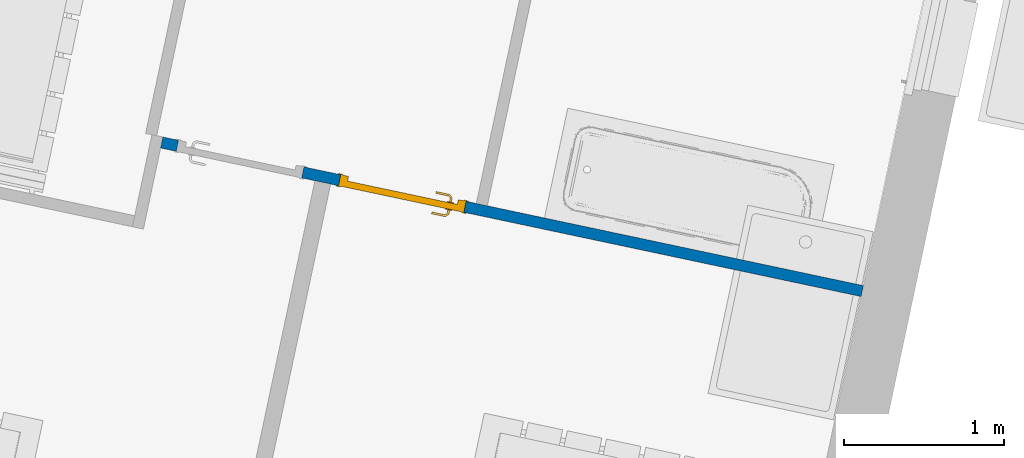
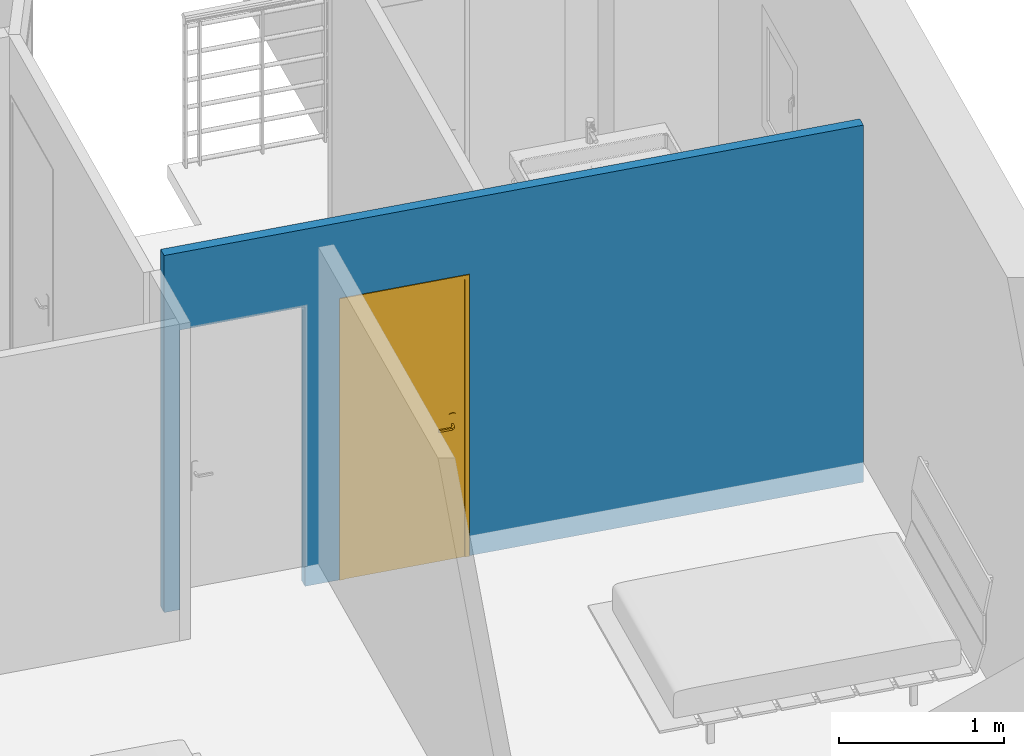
# One storey, part 4 of 18: 1 door, 1 wall, 2 openings.
"""IFC2X3 building model written with IfcOpenShell, lengths in metres."""

from ifc_helpers import new_model, entity, si_unit, converted_unit, derived_unit, direction, frame, frame_2d, origin, place, context, subcontext, project, spatial, rectangle, extrude, faceted_brep, source, transform, mapped, material, material_list, layer, layer_set, layer_usage, type_object, type_shapes, element, fill, save


model = new_model("IFC2X3")

# Units and contexts
model_context = context("Model", 3, precision=1e-05, world=origin(), true_north=direction((6.12303176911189e-17, 1.0)))
body_context = subcontext(model_context, "Body", "Model", "MODEL_VIEW")
ifc_project = project(units=[si_unit("LENGTHUNIT", "METRE"), si_unit("AREAUNIT", "SQUARE_METRE"), si_unit("VOLUMEUNIT", "CUBIC_METRE"), converted_unit("PLANEANGLEUNIT", "DEGREE", entity("IfcRatioMeasure", 0.0174532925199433), si_unit("PLANEANGLEUNIT", "RADIAN"), dimensions=[0, 0, 0, 0, 0, 0, 0]), si_unit("MASSUNIT", "GRAM", prefix="KILO"), derived_unit("MASSDENSITYUNIT", [(si_unit("MASSUNIT", "GRAM", prefix="KILO"), 1), (si_unit("LENGTHUNIT", "METRE"), -3)]), si_unit("TIMEUNIT", "SECOND"), si_unit("FREQUENCYUNIT", "HERTZ"), si_unit("THERMODYNAMICTEMPERATUREUNIT", "DEGREE_CELSIUS"), derived_unit("THERMALTRANSMITTANCEUNIT", [(si_unit("MASSUNIT", "GRAM", prefix="KILO"), 1), (si_unit("THERMODYNAMICTEMPERATUREUNIT", "KELVIN"), -1), (si_unit("TIMEUNIT", "SECOND"), -3)]), derived_unit("VOLUMETRICFLOWRATEUNIT", [(si_unit("LENGTHUNIT", "METRE"), 3), (si_unit("TIMEUNIT", "SECOND"), -1)]), si_unit("ELECTRICCURRENTUNIT", "AMPERE"), si_unit("ELECTRICVOLTAGEUNIT", "VOLT"), si_unit("POWERUNIT", "WATT"), si_unit("FORCEUNIT", "NEWTON", prefix="KILO"), si_unit("ILLUMINANCEUNIT", "LUX"), si_unit("LUMINOUSFLUXUNIT", "LUMEN"), si_unit("LUMINOUSINTENSITYUNIT", "CANDELA"), derived_unit("USERDEFINED", [(si_unit("MASSUNIT", "GRAM", prefix="KILO"), -1), (si_unit("LENGTHUNIT", "METRE"), -2), (si_unit("TIMEUNIT", "SECOND"), 3), (si_unit("LUMINOUSFLUXUNIT", "LUMEN"), 1)]), derived_unit("LINEARVELOCITYUNIT", [(si_unit("LENGTHUNIT", "METRE"), 1), (si_unit("TIMEUNIT", "SECOND"), -1)]), si_unit("PRESSUREUNIT", "PASCAL"), derived_unit("USERDEFINED", [(si_unit("LENGTHUNIT", "METRE"), -2), (si_unit("MASSUNIT", "GRAM", prefix="KILO"), 1), (si_unit("TIMEUNIT", "SECOND"), -2)])], contexts=[model_context])

# Site, building, storey
site_placement = place(None, origin())
site = spatial("IfcSite", under=ifc_project, at=site_placement, Name="Default", CompositionType="ELEMENT")
building_placement = place(site_placement, origin())
building = spatial("IfcBuilding", under=site, at=building_placement, CompositionType="ELEMENT")
storey_placement = place(building_placement, frame((0.0, 0.0, 2.8)))
storey = spatial("IfcBuildingStorey", under=building, at=storey_placement, Name="ETAGE", CompositionType="ELEMENT", Elevation=2.8)

# Wall, openings, door
ifc_material_1 = material(Name="Mur par défaut")
ifc_layer = layer(ifc_material_1, 0.07)
ifc_layer_set = layer_set([ifc_layer], Name="Mur de base:Int.  Platre 70 mm")
ifc_layer_usage = layer_usage(ifc_layer_set, "AXIS2", "NEGATIVE", 0.035)
wall_type = type_object("IfcWallType", Name="Mur de base:Int.  Platre 70 mm", PredefinedType="STANDARD", material=ifc_layer_set)
wall_placement = place(storey_placement, frame((-11.0295461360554, 78.4394398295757, 0.0), z_axis=(0.0, 0.0, 1.0), x_axis=(-0.978238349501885, 0.207484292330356, 0.0)))
wall = element("IfcWallStandardCase", 1, at=wall_placement, inside=storey, type_object=wall_type, material=ifc_layer_usage, Name="Mur de base:Int.  Platre 70 mm", ObjectType="Mur de base:Int.  Platre 70 mm", context=body_context, shape_type="SweptSolid", body=[
    extrude(rectangle(XDim=4.47000000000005, YDim=0.0699999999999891, at=frame_2d((2.23500000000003, -2.4008572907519e-15), x_axis=(-1.0, 0.0))), origin(), (0.0, 0.0, 1.0), 2.65),
])
opening_1_placement = place(wall_placement, frame((2.53500000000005, -0.035, 0.0)))
opening_1 = element("IfcOpeningElement", 2, at=opening_1_placement, cuts=wall, Name="Int. Simple:PP (0.73m x 2.04m):1", ObjectType="Opening", context=body_context, shape_type="SweptSolid", body=[
    extrude(rectangle(XDim=2.075, YDim=0.799999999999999, at=frame_2d((1.0375, 0.4), x_axis=(1.0, 0.0))), frame((0.0, 0.0, 0.0), z_axis=(0.0, 1.0, 0.0), x_axis=(0.0, 0.0, 1.0)), (0.0, 0.0, 1.0), 0.07),
])
opening_2_placement = place(wall_placement, frame((3.57000000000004, -0.035, 0.0)))
element("IfcOpeningElement", 3, at=opening_2_placement, cuts=wall, Name="Int. Simple:PP (0.73m x 2.04m):1", ObjectType="Opening", context=body_context, shape_type="SweptSolid", body=[
    extrude(rectangle(XDim=2.075, YDim=0.799999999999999, at=frame_2d((1.0375, 0.4), x_axis=(1.0, 0.0))), frame((0.0, 0.0, 0.0), z_axis=(0.0, 1.0, 0.0), x_axis=(0.0, 0.0, 1.0)), (0.0, 0.0, 1.0), 0.07),
])
ifc_material_2 = material(Name="Finition Peinture - Blanc satiné")
ifc_material_3 = material(Name="Bois - Mélaminé hêtre")
ifc_material_list_1 = material_list([ifc_material_2, ifc_material_3])
ifc_material_list_2 = material_list([ifc_material_2, ifc_material_3])
door_style = type_object("IfcDoorStyle", Name="PP (0.73m x 2.04m)", ConstructionType="NOTDEFINED", OperationType="SINGLE_SWING_RIGHT", ParameterTakesPrecedence=False, Sizeable=False, material=ifc_material_list_2)
shared_shape = source(origin(), body_context, "Body", "Brep", [
    faceted_brep([(0.795000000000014, -0.00500000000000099, 0.870000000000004), (0.795000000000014, -0.00500000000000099, 1.08), (0.785352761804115, -0.00500000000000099, 1.08399601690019), (0.775000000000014, -0.00500000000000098, 1.08535898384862), (0.764647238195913, -0.00500000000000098, 1.08399601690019), (0.755000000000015, -0.00500000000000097, 1.08), (0.755000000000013, -0.00500000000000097, 0.870000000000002), (0.764647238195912, -0.00500000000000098, 0.866003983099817), (0.775000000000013, -0.00500000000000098, 0.86464101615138), (0.785352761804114, -0.00500000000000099, 0.866003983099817), (0.795000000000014, 0.0, 1.08), (0.795000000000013, 0.0, 0.870000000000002), (0.785352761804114, 0.0, 0.866003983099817), (0.775000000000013, 0.0, 0.86464101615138), (0.764647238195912, 0.0, 0.866003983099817), (0.755000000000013, 0.0, 0.870000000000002), (0.755000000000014, 0.0, 1.08), (0.764647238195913, 0.0, 1.08399601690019), (0.775000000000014, 0.0, 1.08535898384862), (0.785352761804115, 0.0, 1.08399601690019)], [[[0, 1, 2, 3, 4, 5, 6, 7, 8, 9]], [[10, 11, 12, 13, 14, 15, 16, 17, 18, 19]], [[9, 12, 11, 0]], [[8, 13, 12, 9]], [[7, 14, 13, 8]], [[7, 6, 15, 14]], [[15, 6, 5, 16]], [[4, 17, 16, 5]], [[3, 18, 17, 4]], [[2, 19, 18, 3]], [[2, 1, 10, 19]], [[11, 10, 1, 0]]]),
    faceted_brep([(0.795000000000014, 0.039999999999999, 0.870000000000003), (0.795000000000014, 0.039999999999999, 1.08), (0.785352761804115, 0.039999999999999, 1.08399601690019), (0.775000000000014, 0.039999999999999, 1.08535898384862), (0.764647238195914, 0.039999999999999, 1.08399601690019), (0.755000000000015, 0.039999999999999, 1.08), (0.755000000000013, 0.039999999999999, 0.870000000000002), (0.764647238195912, 0.039999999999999, 0.866003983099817), (0.775000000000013, 0.039999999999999, 0.86464101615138), (0.785352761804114, 0.039999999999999, 0.866003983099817), (0.775000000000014, 0.044999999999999, 1.08535898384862), (0.785352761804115, 0.044999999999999, 1.08399601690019), (0.795000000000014, 0.044999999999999, 1.08), (0.795000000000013, 0.044999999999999, 0.870000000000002), (0.785352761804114, 0.044999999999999, 0.866003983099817), (0.775000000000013, 0.044999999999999, 0.86464101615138), (0.764647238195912, 0.044999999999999, 0.866003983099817), (0.755000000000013, 0.044999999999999, 0.870000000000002), (0.755000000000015, 0.044999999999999, 1.08), (0.764647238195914, 0.044999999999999, 1.08399601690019)], [[[0, 1, 2, 3, 4, 5, 6, 7, 8, 9]], [[10, 11, 12, 13, 14, 15, 16, 17, 18, 19]], [[4, 19, 18, 5]], [[3, 10, 19, 4]], [[2, 11, 10, 3]], [[2, 1, 12, 11]], [[13, 12, 1, 0]], [[9, 14, 13, 0]], [[8, 15, 14, 9]], [[7, 16, 15, 8]], [[7, 6, 17, 16]], [[17, 6, 5, 18]]]),
    faceted_brep([(0.772974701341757, -0.00500000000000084, 1.00778044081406), (0.777025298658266, -0.00500000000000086, 1.00778044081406), (0.781000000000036, -0.00500000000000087, 1.00699999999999), (0.781000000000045, -0.00500000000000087, 0.992999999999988), (0.777025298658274, -0.00500000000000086, 0.99221955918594), (0.772974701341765, -0.00500000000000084, 0.992219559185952), (0.768999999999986, -0.00500000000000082, 0.993000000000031), (0.768999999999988, -0.00500000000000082, 1.007), (0.777025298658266, -0.0310045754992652, 1.00778044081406), (0.781000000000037, -0.0326509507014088, 1.007), (0.772974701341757, -0.0293267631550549, 1.00778044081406), (0.759298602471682, -0.0430028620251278, 1.00778044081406), (0.760976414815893, -0.047053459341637, 1.00778044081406), (0.768999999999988, -0.0276803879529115, 1.007), (0.768999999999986, -0.0276803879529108, 0.993000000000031), (0.772974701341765, -0.0293267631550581, 0.992219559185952), (0.777025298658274, -0.0310045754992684, 0.99221955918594), (0.760976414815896, -0.0470534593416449, 0.99221955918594), (0.759298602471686, -0.0430028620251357, 0.992219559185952), (0.781000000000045, -0.0326509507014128, 0.992999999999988), (0.762622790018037, -0.051028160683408, 1.007), (0.757652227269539, -0.0390281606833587, 1.007), (0.757652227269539, -0.0390281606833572, 0.993000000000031), (0.76262279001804, -0.0510281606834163, 0.992999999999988), (0.674981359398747, -0.0510281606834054, 1.007), (0.674981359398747, -0.0470534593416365, 1.00778044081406), (0.674981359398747, -0.0430028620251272, 1.00778044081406), (0.674981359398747, -0.0390281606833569, 1.00699999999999), (0.674981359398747, -0.0390281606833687, 0.993000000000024), (0.674981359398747, -0.0430028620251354, 0.992219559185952), (0.674981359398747, -0.0470534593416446, 0.99221955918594), (0.674981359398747, -0.0510281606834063, 0.992999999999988), (0.71713998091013, -0.0450281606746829, 1.0078786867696), (0.722692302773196, -0.0510281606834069, 1.007), (0.716316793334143, -0.0390281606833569, 1.007), (0.716316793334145, -0.0390281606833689, 0.993000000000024), (0.717139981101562, -0.0450281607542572, 0.992121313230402), (0.722692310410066, -0.0510281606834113, 0.992999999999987)], [[[0, 1, 2, 3, 4, 5, 6, 7]], [[2, 1, 8, 9]], [[1, 0, 10, 11, 12, 8]], [[0, 7, 13, 10]], [[14, 13, 7, 6]], [[5, 15, 14, 6]], [[5, 4, 16, 17, 18, 15]], [[3, 19, 16, 4]], [[9, 19, 3, 2]], [[9, 8, 12, 20]], [[10, 13, 21, 11]], [[22, 21, 13, 14]], [[14, 15, 18, 22]], [[16, 19, 23, 17]], [[20, 23, 19, 9]], [[24, 25, 26, 27, 28, 29, 30, 31]], [[32, 25, 33]], [[33, 25, 24]], [[33, 20, 12]], [[11, 34, 32]], [[34, 11, 21]], [[27, 26, 34]], [[32, 26, 25]], [[32, 34, 26]], [[32, 33, 12]], [[11, 32, 12]], [[21, 22, 35, 28, 27, 34]], [[36, 29, 35]], [[30, 36, 37]], [[18, 35, 22]], [[29, 28, 35]], [[30, 37, 31]], [[37, 17, 23]], [[36, 17, 37]], [[36, 18, 17]], [[36, 35, 18]], [[29, 36, 30]], [[23, 20, 33, 24, 31, 37]]]),
    faceted_brep([(0.772974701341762, 0.0449999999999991, 0.992219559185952), (0.777025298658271, 0.0449999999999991, 0.99221955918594), (0.781000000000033, 0.0449999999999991, 0.992999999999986), (0.781000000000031, 0.0449999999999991, 1.007), (0.777025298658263, 0.0449999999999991, 1.00778044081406), (0.772974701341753, 0.0449999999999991, 1.00778044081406), (0.768999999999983, 0.0449999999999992, 1.007), (0.768999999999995, 0.0449999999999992, 0.993000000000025), (0.768999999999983, 0.0674852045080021, 1.007), (0.768999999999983, 0.0674852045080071, 0.993000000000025), (0.772974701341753, 0.0691315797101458, 1.00778044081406), (0.777025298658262, 0.070809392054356, 1.00778044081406), (0.760838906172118, 0.0869957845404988, 1.00778044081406), (0.759161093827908, 0.0829451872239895, 1.00778044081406), (0.781000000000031, 0.0724557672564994, 1.007), (0.781000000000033, 0.0724557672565, 0.992999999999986), (0.777025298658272, 0.0708093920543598, 0.99221955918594), (0.772974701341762, 0.0691315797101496, 0.992219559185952), (0.759161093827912, 0.0829451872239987, 0.992219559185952), (0.760838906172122, 0.0869957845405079, 0.99221955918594), (0.757514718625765, 0.0789704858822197, 1.007), (0.757514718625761, 0.0789704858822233, 0.993000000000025), (0.762485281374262, 0.0909704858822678, 1.007), (0.762485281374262, 0.0909704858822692, 0.992999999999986), (0.674954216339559, 0.0829451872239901, 1.00778044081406), (0.674954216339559, 0.0869957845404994, 1.00778044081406), (0.674954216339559, 0.0909704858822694, 1.007), (0.674954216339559, 0.0909704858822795, 0.992999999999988), (0.674954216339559, 0.0869957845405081, 0.99221955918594), (0.674954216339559, 0.0829451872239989, 0.992219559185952), (0.674954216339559, 0.07897048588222, 0.993000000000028), (0.674954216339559, 0.0789704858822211, 1.007), (0.716234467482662, 0.0789704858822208, 1.007), (0.716234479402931, 0.0789704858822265, 0.993000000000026), (0.717057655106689, 0.0849704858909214, 1.0078786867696), (0.722554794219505, 0.0909704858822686, 1.007), (0.722554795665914, 0.0909704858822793, 0.992999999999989), (0.717057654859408, 0.0849704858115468, 0.992121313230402)], [[[0, 1, 2, 3, 4, 5, 6, 7]], [[8, 9, 7, 6]], [[5, 10, 8, 6]], [[5, 4, 11, 12, 13, 10]], [[3, 14, 11, 4]], [[14, 3, 2, 15]], [[2, 1, 16, 15]], [[1, 0, 17, 18, 19, 16]], [[0, 7, 9, 17]], [[20, 21, 9, 8]], [[8, 10, 13, 20]], [[14, 22, 12, 11]], [[23, 22, 14, 15]], [[15, 16, 19, 23]], [[17, 9, 21, 18]], [[24, 25, 26, 27, 28, 29, 30, 31]], [[21, 20, 32, 31, 30, 33]], [[34, 24, 32]], [[25, 34, 35]], [[13, 32, 20]], [[24, 31, 32]], [[25, 35, 26]], [[35, 12, 22]], [[34, 12, 35]], [[34, 13, 12]], [[34, 32, 13]], [[24, 34, 25]], [[22, 23, 36, 27, 26, 35]], [[37, 28, 36]], [[36, 28, 27]], [[36, 23, 19]], [[18, 33, 37]], [[33, 18, 21]], [[30, 29, 33]], [[37, 29, 28]], [[37, 33, 29]], [[37, 36, 19]], [[18, 37, 19]]]),
    faceted_brep([(0.835000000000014, 0.0400000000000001, 2.04), (0.835000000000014, 0.0400000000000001, 0.0), (0.105000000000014, 0.0400000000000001, 0.0), (0.105000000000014, 0.0400000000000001, 2.04), (0.835000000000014, 0.0, 2.04), (0.105000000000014, 0.0, 2.04), (0.105000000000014, 0.0, 0.0), (0.835000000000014, 0.0, 0.0)], [[[0, 1, 2, 3]], [[4, 5, 6, 7]], [[3, 5, 4, 0]], [[2, 6, 5, 3]], [[1, 7, 6, 2]], [[0, 4, 7, 1]]]),
    faceted_brep([(0.870000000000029, 0.0, 0.0), (0.835000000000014, 0.0, 0.0), (0.835000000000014, 0.04, 0.0), (0.820000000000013, 0.04, 0.0), (0.820000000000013, 0.0699999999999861, 0.0), (0.870000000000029, 0.0699999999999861, 0.0), (0.870000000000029, 0.0699999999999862, 2.07500000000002), (0.870000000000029, 0.0, 2.07500000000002), (0.820000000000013, 0.0699999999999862, 2.025), (0.120000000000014, 0.0699999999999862, 2.025), (0.120000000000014, 0.0699999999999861, 0.0), (0.0699999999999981, 0.0699999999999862, 0.0), (0.0699999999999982, 0.0699999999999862, 2.07500000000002), (0.820000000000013, 0.04, 2.025), (0.835000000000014, 0.04, 2.04), (0.105000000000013, 0.04, 2.04), (0.105000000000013, 0.04, 0.0), (0.120000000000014, 0.04, 0.0), (0.120000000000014, 0.04, 2.025), (0.835000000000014, 0.0, 2.04), (0.0699999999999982, 0.0, 2.07500000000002), (0.0699999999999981, 0.0, 0.0), (0.105000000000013, 0.0, 0.0), (0.105000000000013, 0.0, 2.04)], [[[0, 1, 2, 3, 4, 5]], [[5, 6, 7, 0]], [[4, 8, 9, 10, 11, 12, 6, 5]], [[3, 13, 8, 4]], [[2, 14, 15, 16, 17, 18, 13, 3]], [[1, 19, 14, 2]], [[0, 7, 20, 21, 22, 23, 19, 1]], [[12, 11, 21, 20]], [[21, 11, 10, 17, 16, 22]], [[18, 17, 10, 9]], [[23, 22, 16, 15]], [[6, 12, 20, 7]], [[13, 18, 9, 8]], [[19, 23, 15, 14]]]),
    faceted_brep([(0.855000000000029, 0.0699999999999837, 0.0), (0.855000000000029, 0.0749999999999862, 0.0), (0.885000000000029, 0.0749999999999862, 0.0), (0.885000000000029, 0.0699999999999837, 0.0), (0.885000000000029, 0.0699999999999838, 2.09000000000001), (0.0550000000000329, 0.0699999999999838, 2.09000000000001), (0.055000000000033, 0.0699999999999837, 0.0), (0.0850000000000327, 0.0699999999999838, 0.0), (0.0850000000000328, 0.0699999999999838, 2.06000000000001), (0.855000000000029, 0.0699999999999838, 2.06000000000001), (0.885000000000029, 0.0749999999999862, 2.09000000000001), (0.855000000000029, 0.0749999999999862, 2.06000000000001), (0.0850000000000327, 0.0749999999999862, 2.06000000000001), (0.0850000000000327, 0.0749999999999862, 0.0), (0.055000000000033, 0.0749999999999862, 0.0), (0.0550000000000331, 0.0749999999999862, 2.09000000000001)], [[[0, 1, 2, 3]], [[3, 4, 5, 6, 7, 8, 9, 0]], [[2, 10, 4, 3]], [[1, 11, 12, 13, 14, 15, 10, 2]], [[0, 9, 11, 1]], [[7, 6, 14, 13]], [[8, 7, 13, 12]], [[15, 14, 6, 5]], [[10, 15, 5, 4]], [[9, 8, 12, 11]]]),
    faceted_brep([(0.885000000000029, -0.005, 0.0), (0.885000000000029, -0.005, 2.09000000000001), (0.0550000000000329, -0.005, 2.09000000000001), (0.055000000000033, -0.005, 0.0), (0.0850000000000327, -0.005, 0.0), (0.0850000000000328, -0.005, 2.06000000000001), (0.855000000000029, -0.005, 2.06000000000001), (0.855000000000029, -0.005, 0.0), (0.885000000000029, 0.0, 0.0), (0.885000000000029, 0.0, 2.09000000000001), (0.855000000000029, 0.0, 0.0), (0.855000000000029, 0.0, 2.06000000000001), (0.0850000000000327, 0.0, 2.06000000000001), (0.0850000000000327, 0.0, 0.0), (0.055000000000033, 0.0, 0.0), (0.0550000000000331, 0.0, 2.09000000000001)], [[[0, 1, 2, 3, 4, 5, 6, 7]], [[8, 9, 1, 0]], [[10, 11, 12, 13, 14, 15, 9, 8]], [[7, 6, 11, 10]], [[5, 4, 13, 12]], [[15, 14, 3, 2]], [[9, 15, 2, 1]], [[6, 5, 12, 11]], [[4, 3, 14, 13]], [[7, 10, 8, 0]]]),
])
type_shapes(door_style, [shared_shape])
door_placement = place(opening_1_placement, frame((0.870000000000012, 0.0699999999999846, 0.0), z_axis=(0.0, 0.0, 1.0), x_axis=(-1.0, 0.0, 0.0)))
door = element("IfcDoor", 4, at=door_placement, inside=storey, type_object=door_style, material=ifc_material_list_1, Name="Int. Simple:PP (0.73m x 2.04m)", ObjectType="Int. Simple:PP (0.73m x 2.04m)", OverallHeight=2.075, OverallWidth=0.8, context=body_context, shape_type="MappedRepresentation", body=[
    mapped(shared_shape, transform((0.0, 0.0, 0.0), scale=1.0)),
])
fill(opening_1, door)

save(model, "model.ifc")
